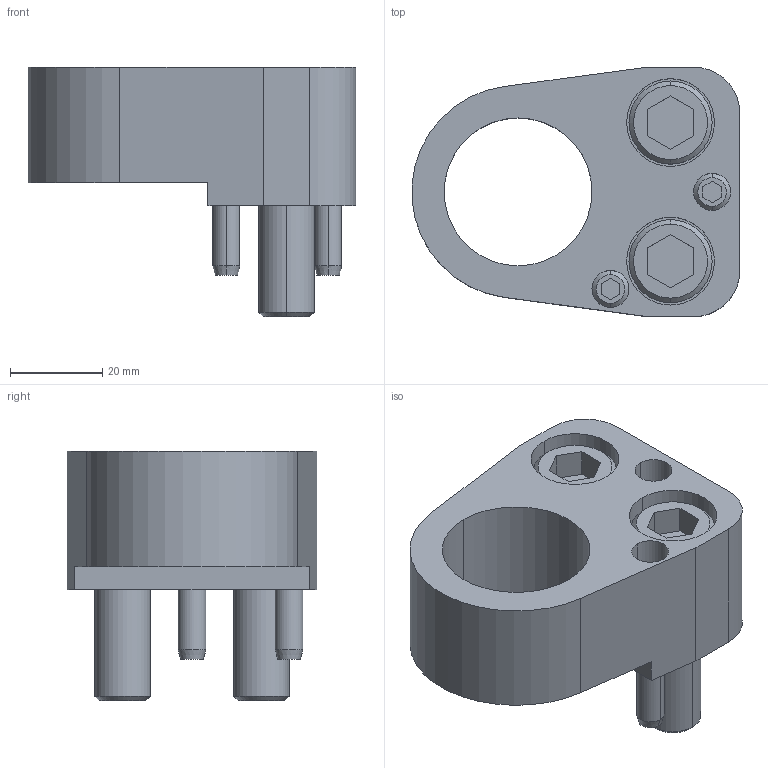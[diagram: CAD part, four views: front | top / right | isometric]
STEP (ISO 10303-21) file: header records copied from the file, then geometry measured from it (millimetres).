
FILE_DESCRIPTION(/* description */ (''),/* implementation_level */ '2;1');
FILE_NAME(/* name */ '3d_dpfr32_02823_r00.stp',/* time_stamp */ '2011-01-10T14:15:53+09:00',/* author */ ('MISUMI'),/* organization */ (''),/* preprocessor_version */ 'ST-DEVELOPER v11',/* originating_system */ 'UGS - NX 5.0',/* authorisation */ '');
FILE_SCHEMA (('CONFIG_CONTROL_DESIGN'));
Length unit declared in the file: millimetre
Products named in the file (1): 3d_dpfr32_02823_r00
Bounding box: 70.92 x 54 x 54 mm (x, y, z)
Volume: 71561.9 mm3; surface area: 25048.9 mm2
Topology: 7 solids, 7 shells, 134 faces, 296 edges, 189 vertices
Faces by surface type: plane 61, cylinder 47, cone 26
Entity records: 3836 total; most frequent: DIRECTION 682, CARTESIAN_POINT 671, ORIENTED_EDGE 592, EDGE_CURVE 296, AXIS2_PLACEMENT_3D 256, VERTEX_POINT 189, LINE 170, VECTOR 170
